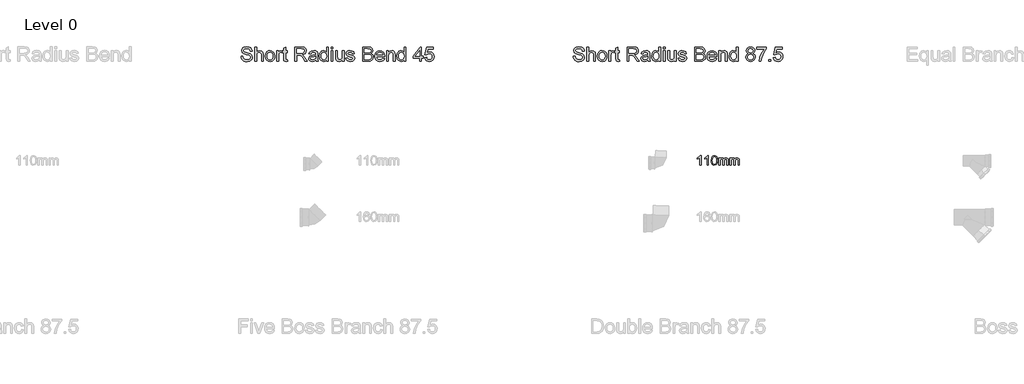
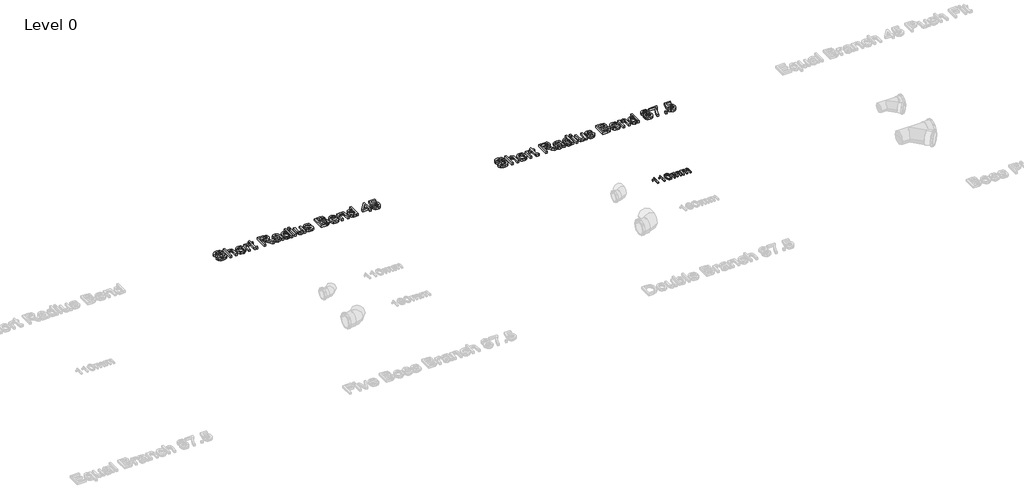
# One storey, part 13 of 15: 3 proxies.
"""IFC4 building model written with IfcOpenShell, lengths in millimetres."""

import ifcopenshell
import ifcopenshell.guid

model = None  # the IFC model being written
_history = None  # IfcOwnerHistory: only IFC2X3 demands one
_inside = {}  # id of a spatial element -> (the spatial element, [elements in it])
_under = {}  # id of a project, library or spatial element -> (it, [spatial elements below it])
_declared = {}  # id of a project -> (the project, [libraries it declares])
_typed = {}  # id of a type object -> (the type object, [elements of that type])
_made_of = {}  # id of a material, layer set ... -> (it, [elements and type objects made of it])


def new_model(schema):
    """Start an empty IFC model of exactly this schema.

    Asked for "IFC4X3", IfcOpenShell would pick the latest addendum, in which some entities
    have other attributes; the version numbers below select the first issue.
    IFC2X3 requires an IfcOwnerHistory on every rooted entity: one is made here for all.
    """
    global model, _history
    if schema == "IFC4X3":
        model = ifcopenshell.file(schema_version=(4, 3, 0, 0))
    else:
        model = ifcopenshell.file(schema=schema)
    _inside.clear()
    _under.clear()
    _declared.clear()
    _typed.clear()
    _made_of.clear()
    _history = None
    if model.schema == "IFC2X3":
        org = make("IfcOrganization", Name="unknown")
        user = make(
            "IfcPersonAndOrganization",
            ThePerson=make("IfcPerson", FamilyName="unknown"),
            TheOrganization=org,
        )
        app = make(
            "IfcApplication",
            ApplicationDeveloper=org,
            Version="unknown",
            ApplicationFullName="unknown",
            ApplicationIdentifier="unknown",
        )
        _history = make(
            "IfcOwnerHistory",
            OwningUser=user,
            OwningApplication=app,
            ChangeAction="ADDED",
            CreationDate=0,
        )
    return model


def make(cls, **values):
    """One entity of the class cls with the attributes given. An attribute that is None is left unset."""
    return model.create_entity(
        cls, **{name: value for name, value in values.items() if value is not None}
    )


def rooted(cls, **values):
    """An entity with a GlobalId (a new one), such as an element, a storey or a relation."""
    return make(cls, GlobalId=ifcopenshell.guid.new(), OwnerHistory=_history, **values)


def si_unit(unit_type, name, prefix=None):
    """IfcSIUnit, for example si_unit("LENGTHUNIT", "METRE", prefix="MILLI")."""
    return make("IfcSIUnit", UnitType=unit_type, Prefix=prefix, Name=name)


def assignment(units):
    """IfcUnitAssignment: the units of a project."""
    return None if units is None else make("IfcUnitAssignment", Units=units)


def point(xyz):
    """IfcCartesianPoint."""
    return None if xyz is None else make("IfcCartesianPoint", Coordinates=xyz)


def direction(xyz):
    """IfcDirection."""
    return None if xyz is None else make("IfcDirection", DirectionRatios=xyz)


def frame(location, z_axis=None, x_axis=None):
    """IfcAxis2Placement3D, a coordinate frame: its origin and axes. An axis left out is left unset."""
    return make(
        "IfcAxis2Placement3D",
        Location=point(location),
        Axis=direction(z_axis),
        RefDirection=direction(x_axis),
    )


def origin():
    """The frame at (0, 0, 0) with its axes left unset."""
    return frame((0.0, 0.0, 0.0))


def origin_with_axes():
    """The frame at (0, 0, 0) with the z axis (0, 0, 1) and the x axis (1, 0, 0) written out."""
    return frame((0.0, 0.0, 0.0), z_axis=(0.0, 0.0, 1.0), x_axis=(1.0, 0.0, 0.0))


def place(relative_to, where):
    """IfcLocalPlacement: puts the frame where relative to a parent placement (None: the world)."""
    return make(
        "IfcLocalPlacement", PlacementRelTo=relative_to, RelativePlacement=where
    )


def context(
    kind, dimensions, precision=None, world=None, true_north=None, identifier=None
):
    """IfcGeometricRepresentationContext, for example the 3D "Model" context."""
    return make(
        "IfcGeometricRepresentationContext",
        ContextIdentifier=identifier,
        ContextType=kind,
        CoordinateSpaceDimension=dimensions,
        Precision=precision,
        WorldCoordinateSystem=world,
        TrueNorth=true_north,
    )


def project(units=None, contexts=None):
    """IfcProject with its units and contexts."""
    return rooted(
        "IfcProject",
        Name="project",
        RepresentationContexts=contexts,
        UnitsInContext=assignment(units),
    )


def spatial(cls, under=None, at=None, **own):
    """A site, building, storey or space (cls), placed at a placement, below another one or the project."""
    s = rooted(cls, ObjectPlacement=at, **own)
    if under is not None:
        _under.setdefault(under.id(), (under, []))[1].append(s)
    return s


def polyline(points):
    """IfcPolyline through the points."""
    return make("IfcPolyline", Points=[point(p) for p in points])


def outline(outer, holes=None, kind="AREA"):
    """IfcArbitraryClosedProfileDef: a profile drawn as a closed curve; with holes, ...WithVoids."""
    if holes is None:
        return make("IfcArbitraryClosedProfileDef", ProfileType=kind, OuterCurve=outer)
    return make(
        "IfcArbitraryProfileDefWithVoids",
        ProfileType=kind,
        OuterCurve=outer,
        InnerCurves=holes,
    )


def extrude(swept, where, along, depth):
    """IfcExtrudedAreaSolid: the profile swept, set in the frame where, extruded along a direction by depth."""
    return make(
        "IfcExtrudedAreaSolid",
        SweptArea=swept,
        Position=where,
        ExtrudedDirection=direction(along),
        Depth=depth,
    )


def shape(context_of_items, identifier, shape_type, items):
    """IfcShapeRepresentation: the items that make up one representation, for example the "Body"."""
    return make(
        "IfcShapeRepresentation",
        ContextOfItems=context_of_items,
        RepresentationIdentifier=identifier,
        RepresentationType=shape_type,
        Items=items,
    )


def made_of(thing, what):
    """Note that an element or type object is made of a material, layer set ...; save() writes the relation."""
    if what is not None:
        _made_of.setdefault(what.id(), (what, []))[1].append(thing)
    return thing


def element(
    cls,
    number,
    at=None,
    inside=None,
    cuts=None,
    type_object=None,
    material=None,
    context=None,
    identifier="Body",
    shape_type=None,
    held_by="IfcProductDefinitionShape",
    body=None,
    shapes=None,
    **own,
):
    """One element of the class cls, such as IfcWall. Its Tag is "e" and its number.

    at: its placement. inside: the storey or other place that contains it. cuts: it is an
    opening in that element (IfcRelVoidsElement). A single representation is given by context,
    identifier, shape_type and body (its items); several are given by shapes. held_by: the class
    of the entity that holds the representations. save() writes the other relations.
    """
    e = rooted(cls, Tag="e%d" % number, ObjectPlacement=at, **own)
    if body is not None:
        shapes = [shape(context, identifier, shape_type, body)]
    if shapes is not None:
        e.Representation = make(held_by, Representations=shapes)
    if inside is not None:
        _inside.setdefault(inside.id(), (inside, []))[1].append(e)
    if cuts is not None:
        rooted(
            "IfcRelVoidsElement", RelatingBuildingElement=cuts, RelatedOpeningElement=e
        )
    if type_object is not None:
        _typed.setdefault(type_object.id(), (type_object, []))[1].append(e)
    return made_of(e, material)


def aggregate(whole, parts):
    """IfcRelAggregates: a whole, such as a stair, and the parts it consists of."""
    return rooted("IfcRelAggregates", RelatingObject=whole, RelatedObjects=parts)


def save(model, path):
    """Write the relations noted so far, then the file.

    IfcRelAggregates (storeys below a building ...), IfcRelContainedInSpatialStructure (elements
    in a storey), IfcRelDefinesByType, IfcRelAssociatesMaterial and IfcRelDeclares: one each for
    every whole, place, type object, material and project.
    """
    for whole, parts in _under.values():
        aggregate(whole, parts)
    for where, things in _inside.values():
        rooted(
            "IfcRelContainedInSpatialStructure",
            RelatedElements=things,
            RelatingStructure=where,
        )
    for kind, things in _typed.values():
        rooted("IfcRelDefinesByType", RelatedObjects=things, RelatingType=kind)
    for what, things in _made_of.values():
        rooted("IfcRelAssociatesMaterial", RelatedObjects=things, RelatingMaterial=what)
    for by, libraries in _declared.values():
        rooted("IfcRelDeclares", RelatingContext=by, RelatedDefinitions=libraries)
    model.write(path)


model = new_model("IFC4")

# Units and contexts
model_context = context("Model", 3, world=origin())
ifc_project = project(units=[si_unit("LENGTHUNIT", "METRE", prefix="MILLI")], contexts=[model_context])

# Site, building, storey
site = spatial("IfcSite", under=ifc_project)
building = spatial("IfcBuilding", under=site)
storey = spatial("IfcBuildingStorey", under=building, Name="Level 0", Elevation=0.0)

# Proxies
placement = place(None, origin())
element("IfcBuildingElementProxy", 1, Name="100mm Arial", ObjectType="100mm Arial", at=placement, inside=storey, context=model_context, shape_type="SweptSolid", body=[
    extrude(outline(polyline([(-3291.7293188, 8237.7167304), (-3304.0370111, 8237.7167304), (-3304.0370111, 8314.4474996), (-3315.6956649, 8306.1422111), (-3328.6523957, 8299.9282688), (-3328.6523957, 8311.5628842), (-3310.6115303, 8323.0773073), (-3299.6620111, 8336.1782688), (-3291.7293188, 8336.1782688), (-3291.7293188, 8237.7167304)])), origin_with_axes(), (0.0, 0.0, 1.0), 15.0),
    extrude(outline(polyline([(-3216.3447034, 8237.7167304), (-3228.6523957, 8237.7167304), (-3228.6523957, 8314.4474996), (-3240.3110495, 8306.1422111), (-3253.2677803, 8299.9282688), (-3253.2677803, 8311.5628842), (-3235.2269149, 8323.0773073), (-3224.2773957, 8336.1782688), (-3216.3447034, 8336.1782688), (-3216.3447034, 8237.7167304)])), origin_with_axes(), (0.0, 0.0, 1.0), 15.0),
    extrude(outline(polyline([(-3187.1139341, 8286.1542304), (-3183.4961457, 8314.4835573), (-3172.7509534, 8330.8176919), (-3154.8062418, 8336.1782688), (-3140.4312418, 8333.0051919), (-3130.5033572, 8323.8585573), (-3124.7341264, 8309.2912496), (-3122.4985495, 8286.1542304), (-3126.0802803, 8257.9450958), (-3136.7894149, 8241.5749035), (-3154.8062418, 8236.1782688), (-3167.5947034, 8238.5220188), (-3177.3062418, 8245.5532688), (-3184.6620111, 8262.2059131), (-3187.1139341, 8286.1542304)]), holes=[polyline([(-3174.8062418, 8286.1782688), (-3173.3639341, 8266.8182929), (-3169.0370111, 8255.613365), (-3162.5947034, 8250.2678121), (-3154.8062418, 8248.4859611), (-3147.0177803, 8250.2738217), (-3140.5754726, 8255.6374035), (-3136.2485495, 8266.848341), (-3134.8062418, 8286.1782688), (-3136.2004726, 8305.1025477), (-3140.3831649, 8316.394615), (-3146.8134534, 8322.0015861), (-3154.9504726, 8323.8705765), (-3162.6547995, 8322.2239419), (-3168.8447034, 8317.2840381), (-3173.3158572, 8305.2888458), (-3174.8062418, 8286.1782688)])]), origin_with_axes(), (0.0, 0.0, 1.0), 15.0),
    extrude(outline(polyline([(-3108.6523957, 8237.7167304), (-3108.6523957, 8310.0244227), (-3096.3447034, 8310.0244227), (-3096.3447034, 8298.1253842), (-3087.8831649, 8307.8729804), (-3075.8398957, 8311.5628842), (-3063.5081649, 8307.800865), (-3056.7293188, 8297.2599996), (-3047.1259534, 8307.9871631), (-3034.9985495, 8311.5628842), (-3025.7467466, 8310.0755044), (-3018.9047995, 8305.613365), (-3014.6770351, 8298.0562736), (-3013.2677803, 8287.2840381), (-3013.2677803, 8237.7167304), (-3025.5754726, 8237.7167304), (-3025.5754726, 8281.9955765), (-3026.7172995, 8292.2720188), (-3030.8519149, 8297.332115), (-3037.8831649, 8299.2551919), (-3049.9865303, 8294.3273073), (-3054.8062418, 8278.5340381), (-3054.8062418, 8237.7167304), (-3067.1139341, 8237.7167304), (-3067.1139341, 8283.3657688), (-3069.9624918, 8295.2888458), (-3079.3014341, 8299.2551919), (-3088.4120111, 8296.6109611), (-3094.4697034, 8288.8705765), (-3096.3447034, 8274.1830765), (-3096.3447034, 8237.7167304), (-3108.6523957, 8237.7167304)])), origin_with_axes(), (0.0, 0.0, 1.0), 15.0),
    extrude(outline(polyline([(-2994.8062418, 8237.7167304), (-2994.8062418, 8310.0244227), (-2982.4985495, 8310.0244227), (-2982.4985495, 8298.1253842), (-2974.0370111, 8307.8729804), (-2961.9937418, 8311.5628842), (-2949.6620111, 8307.800865), (-2942.8831649, 8297.2599996), (-2933.2797995, 8307.9871631), (-2921.1523957, 8311.5628842), (-2911.9005928, 8310.0755044), (-2905.0586457, 8305.613365), (-2900.8308813, 8298.0562736), (-2899.4216264, 8287.2840381), (-2899.4216264, 8237.7167304), (-2911.7293188, 8237.7167304), (-2911.7293188, 8281.9955765), (-2912.8711457, 8292.2720188), (-2917.0057611, 8297.332115), (-2924.0370111, 8299.2551919), (-2936.1403764, 8294.3273073), (-2940.960088, 8278.5340381), (-2940.960088, 8237.7167304), (-2953.2677803, 8237.7167304), (-2953.2677803, 8283.3657688), (-2956.116338, 8295.2888458), (-2965.4552803, 8299.2551919), (-2974.5658572, 8296.6109611), (-2980.6235495, 8288.8705765), (-2982.4985495, 8274.1830765), (-2982.4985495, 8237.7167304), (-2994.8062418, 8237.7167304)])), origin_with_axes(), (0.0, 0.0, 1.0), 15.0),
])
element("IfcBuildingElementProxy", 2, Name="150mm Arial", ObjectType="150mm Arial", at=placement, inside=storey, context=model_context, shape_type="SweptSolid", body=[
    extrude(outline(polyline([(-8020.2202973, 9355.9837527), (-8001.7587589, 9355.9837527), (-7995.8092397, 9337.5041854), (-7981.2779897, 9325.8214931), (-7959.1385666, 9321.3683681), (-7939.8477012, 9324.7397623), (-7927.3897685, 9334.0065892), (-7923.2972204, 9346.3924065), (-7926.3621243, 9357.9128392), (-7938.9102012, 9366.2962527), (-7965.7912108, 9373.3455315), (-7994.7275089, 9382.4500988), (-8010.4306339, 9396.1880796), (-8015.6049127, 9414.541445), (-8014.0048526, 9425.3542455), (-8009.2046723, 9435.4368777), (-8001.3305738, 9443.9825508), (-7990.5087589, 9450.1844738), (-7963.1409704, 9455.2145219), (-7933.9342397, 9449.9500988), (-7922.7383262, 9443.4506998), (-7914.4630858, 9434.4813488), (-7909.225706, 9423.6009402), (-7907.1433743, 9411.3683681), (-7925.6049127, 9411.3683681), (-7928.9943358, 9422.3839931), (-7936.0616435, 9430.3347142), (-7947.1043118, 9435.1484161), (-7962.4198166, 9436.7529835), (-7978.0958983, 9435.166445), (-7988.850105, 9430.4068296), (-7995.070057, 9423.4026229), (-7997.1433743, 9415.0823104), (-7995.6740233, 9407.9879594), (-7991.2659704, 9402.2818296), (-7961.1217397, 9391.9693296), (-7928.4534704, 9382.7025027), (-7917.9291315, 9376.0047863), (-7910.5868839, 9367.7385604), (-7904.835682, 9346.8611565), (-7906.4898286, 9335.4804474), (-7911.4522685, 9324.77582), (-7919.5201772, 9315.5630796), (-7930.49073, 9308.6580315), (-7958.4174127, 9302.9068296), (-7976.5048526, 9304.4573104), (-7991.3921723, 9309.1087527), (-8003.2506459, 9316.8791854), (-8012.2515473, 9327.7866373), (-8018.0297925, 9341.0738969), (-8020.2202973, 9355.9837527)])), origin_with_axes(), (0.0, 0.0, 1.0), 25.0),
    extrude(outline(polyline([(-7879.4510666, 9305.2145219), (-7879.4510666, 9452.9068296), (-7860.9895281, 9452.9068296), (-7860.9895281, 9398.603945), (-7846.5934945, 9411.6388008), (-7828.8621243, 9415.9837527), (-7808.1289512, 9411.2421661), (-7795.5448166, 9398.135195), (-7791.7587589, 9373.8683681), (-7791.7587589, 9305.2145219), (-7810.2202973, 9305.2145219), (-7810.2202973, 9371.9573104), (-7811.6896483, 9383.5138008), (-7816.0977012, 9391.4284642), (-7823.2010666, 9395.9987767), (-7832.756355, 9397.5222142), (-7847.882557, 9393.4116373), (-7857.9787108, 9382.2698104), (-7860.9895281, 9362.8347142), (-7860.9895281, 9305.2145219), (-7879.4510666, 9305.2145219)])), origin_with_axes(), (0.0, 0.0, 1.0), 25.0),
    extrude(outline(polyline([(-7770.9895281, 9359.4452911), (-7766.9961387, 9385.5961325), (-7755.0159704, 9403.9765411), (-7740.2142877, 9412.9819498), (-7722.491932, 9415.9837527), (-7703.0974007, 9412.3284041), (-7687.6061147, 9401.3623585), (-7677.4513671, 9383.9510003), (-7674.0664512, 9360.9597142), (-7675.5628454, 9342.3088729), (-7680.0520281, 9328.1111565), (-7687.4032901, 9317.4786445), (-7697.4859223, 9309.5234161), (-7709.4615834, 9304.5609762), (-7722.491932, 9302.9068296), (-7742.1208382, 9306.5486565), (-7757.5940954, 9317.4741373), (-7767.6406699, 9335.2505796), (-7770.9895281, 9359.4452911)]), holes=[polyline([(-7752.5279897, 9359.4813488), (-7750.3915714, 9342.7731157), (-7743.9823166, 9330.86957), (-7734.3368839, 9323.7436686), (-7722.491932, 9321.3683681), (-7710.7010666, 9323.7571902), (-7701.0736627, 9330.9236565), (-7694.6644079, 9342.9849546), (-7692.5279897, 9360.0582719), (-7694.6779296, 9376.2797262), (-7701.1277493, 9388.0210123), (-7710.7686747, 9395.1469137), (-7722.491932, 9397.5222142), (-7734.3368839, 9395.1559282), (-7743.9823166, 9388.05707), (-7750.3915714, 9376.1805676), (-7752.5279897, 9359.4813488)])]), origin_with_axes(), (0.0, 0.0, 1.0), 25.0),
    extrude(outline(polyline([(-7653.2972204, 9305.2145219), (-7653.2972204, 9413.6760604), (-7637.1433743, 9413.6760604), (-7637.1433743, 9397.6303873), (-7625.6770281, 9412.4140411), (-7614.1385666, 9415.9837527), (-7595.6049127, 9410.2866373), (-7601.7707781, 9393.7361565), (-7614.7515473, 9397.5222142), (-7625.1902493, 9393.8803873), (-7631.8428935, 9383.7842335), (-7634.835682, 9362.2217335), (-7634.835682, 9305.2145219), (-7653.2972204, 9305.2145219)])), origin_with_axes(), (0.0, 0.0, 1.0), 25.0),
    extrude(outline(polyline([(-7544.835682, 9320.6111565), (-7542.5279897, 9304.6736565), (-7556.3380858, 9302.9068296), (-7571.8068358, 9305.9717335), (-7579.523182, 9314.0125988), (-7581.7587589, 9334.9621181), (-7581.7587589, 9395.2145219), (-7595.6049127, 9395.2145219), (-7595.6049127, 9413.6760604), (-7581.7587589, 9413.6760604), (-7581.7587589, 9440.0342335), (-7563.2972204, 9450.8875988), (-7563.2972204, 9413.6760604), (-7544.835682, 9413.6760604), (-7544.835682, 9395.2145219), (-7563.2972204, 9395.2145219), (-7563.2972204, 9335.5029835), (-7562.3236627, 9325.9837527), (-7559.1686147, 9322.6123585), (-7552.8765473, 9321.3683681), (-7544.835682, 9320.6111565)])), origin_with_axes(), (0.0, 0.0, 1.0), 25.0),
    extrude(outline(polyline([(-7466.3741435, 9305.2145219), (-7466.3741435, 9452.9068296), (-7402.7323166, 9452.9068296), (-7373.1830377, 9448.9224546), (-7364.0874848, 9443.4056277), (-7357.0291916, 9434.8238969), (-7352.499444, 9424.1823705), (-7350.9895281, 9412.4861565), (-7353.4910305, 9397.9368777), (-7360.9955377, 9385.8755796), (-7373.7284103, 9377.0324306), (-7391.9150089, 9372.1375988), (-7381.4222204, 9364.2409642), (-7366.4582781, 9345.2385604), (-7341.8308743, 9305.2145219), (-7363.2852012, 9305.2145219), (-7382.5039512, 9335.8275027), (-7396.3861627, 9356.0919258), (-7406.1397685, 9365.6652431), (-7414.9198166, 9369.1808681), (-7425.6289512, 9369.8299065), (-7447.912605, 9369.8299065), (-7447.912605, 9305.2145219), (-7466.3741435, 9305.2145219)]), holes=[polyline([(-7447.912605, 9388.291445), (-7406.5904897, 9388.291445), (-7385.5147685, 9390.9056277), (-7373.5436147, 9399.2710123), (-7369.4510666, 9411.8010604), (-7371.4026892, 9420.806469), (-7377.257557, 9428.0630796), (-7387.3311747, 9432.8497383), (-7401.9390473, 9434.4452911), (-7447.912605, 9434.4452911), (-7447.912605, 9388.291445)])]), origin_with_axes(), (0.0, 0.0, 1.0), 25.0),
    extrude(outline(polyline([(-7251.7587589, 9319.0606758), (-7269.6614031, 9306.5486565), (-7289.4390473, 9302.9068296), (-7304.8672324, 9305.0973344), (-7316.2479416, 9311.6688488), (-7323.2656699, 9321.6478152), (-7325.6049127, 9334.0606758), (-7322.0712589, 9348.6640411), (-7312.7864031, 9359.2650027), (-7299.8597204, 9365.322695), (-7283.8861627, 9368.0991373), (-7251.866932, 9374.4452911), (-7251.7587589, 9378.5558681), (-7253.0297925, 9386.7950508), (-7256.8428935, 9392.1856758), (-7265.3705377, 9396.1880796), (-7277.2515473, 9397.5222142), (-7295.929432, 9393.9705315), (-7304.835682, 9381.3683681), (-7323.2972204, 9383.6760604), (-7315.3104416, 9401.7049065), (-7299.2287108, 9412.2698104), (-7274.8717397, 9415.9837527), (-7252.4979416, 9412.7025027), (-7239.8597204, 9404.46332), (-7234.1986627, 9391.9332719), (-7233.2972204, 9375.7794258), (-7233.2972204, 9352.8106758), (-7232.3597204, 9320.7373585), (-7228.6818358, 9305.2145219), (-7247.1433743, 9305.2145219), (-7251.7587589, 9319.0606758)]), holes=[polyline([(-7251.7587589, 9355.9837527), (-7281.5424127, 9350.322695), (-7297.4258262, 9347.3299065), (-7304.6193358, 9342.4621181), (-7307.1433743, 9335.3587527), (-7301.6445762, 9325.3707719), (-7285.5087589, 9321.3683681), (-7266.8308743, 9325.7854354), (-7254.787605, 9336.4765411), (-7251.866932, 9350.7553873), (-7251.7587589, 9355.9837527)])]), origin_with_axes(), (0.0, 0.0, 1.0), 25.0),
    extrude(outline(polyline([(-7140.9895281, 9305.2145219), (-7140.9895281, 9322.6303873), (-7153.2040714, 9307.837719), (-7170.0880858, 9302.9068296), (-7182.023182, 9304.6916854), (-7192.9486627, 9310.0462527), (-7202.1974608, 9318.596433), (-7209.1025089, 9329.9681277), (-7213.4023887, 9343.7016012), (-7214.835682, 9359.3371181), (-7209.55323, 9388.7241373), (-7202.9546723, 9400.3797863), (-7193.7239031, 9408.9525027), (-7182.5595401, 9414.2259402), (-7170.1602012, 9415.9837527), (-7153.1409704, 9410.9537046), (-7140.9895281, 9397.8827911), (-7140.9895281, 9452.9068296), (-7122.5279897, 9452.9068296), (-7122.5279897, 9305.2145219), (-7140.9895281, 9305.2145219)]), holes=[polyline([(-7196.3741435, 9359.4092335), (-7194.2918118, 9342.7100147), (-7188.0448166, 9330.8335123), (-7178.9672925, 9323.7346541), (-7168.3933743, 9321.3683681), (-7157.8239632, 9323.6264811), (-7148.976307, 9330.40082), (-7142.9862228, 9341.8175868), (-7140.9895281, 9358.0029835), (-7143.0222805, 9375.698296), (-7149.1205377, 9387.9669258), (-7158.1935546, 9395.1333921), (-7169.1505858, 9397.5222142), (-7179.8326772, 9395.2280436), (-7188.585682, 9388.3455315), (-7194.4270281, 9376.5231157), (-7196.3741435, 9359.4092335)])]), origin_with_axes(), (0.0, 0.0, 1.0), 25.0),
    extrude(outline(polyline([(-7094.835682, 9305.2145219), (-7094.835682, 9413.6760604), (-7076.3741435, 9413.6760604), (-7076.3741435, 9305.2145219), (-7094.835682, 9305.2145219)])), origin_with_axes(), (0.0, 0.0, 1.0), 25.0),
    extrude(outline(polyline([(-7094.835682, 9434.4452911), (-7094.835682, 9452.9068296), (-7076.3741435, 9452.9068296), (-7076.3741435, 9434.4452911), (-7094.835682, 9434.4452911)])), origin_with_axes(), (0.0, 0.0, 1.0), 25.0),
    extrude(outline(polyline([(-6979.4510666, 9305.2145219), (-6979.4510666, 9323.8563488), (-6993.9102012, 9308.1442094), (-7012.7683743, 9302.9068296), (-7030.1301531, 9306.5847142), (-7042.101307, 9315.8154835), (-7047.600105, 9329.4092335), (-7048.6818358, 9346.572695), (-7048.6818358, 9413.6760604), (-7030.2202973, 9413.6760604), (-7030.2202973, 9355.2625988), (-7029.1025089, 9336.4404835), (-7021.8008262, 9325.3888008), (-7008.0448166, 9321.3683681), (-6992.6301531, 9325.478945), (-6982.443855, 9336.6748585), (-6979.4510666, 9357.2457719), (-6979.4510666, 9413.6760604), (-6960.9895281, 9413.6760604), (-6960.9895281, 9305.2145219), (-6979.4510666, 9305.2145219)])), origin_with_axes(), (0.0, 0.0, 1.0), 25.0),
    extrude(outline(polyline([(-6942.5279897, 9337.5222142), (-6924.0664512, 9339.8299065), (-6921.1547925, 9331.9332719), (-6915.5207781, 9326.1279835), (-6895.9414512, 9321.3683681), (-6877.1193358, 9325.7313488), (-6870.9895281, 9335.9717335), (-6877.1553935, 9344.2650027), (-6896.1577973, 9349.5294258), (-6923.9582781, 9358.5618777), (-6936.0916916, 9369.1087527), (-6940.2202973, 9384.0005796), (-6936.9029897, 9397.7565892), (-6927.8525089, 9408.2674065), (-6916.11573, 9413.7301469), (-6900.2323166, 9415.9837527), (-6877.7683743, 9412.3599546), (-6863.4895281, 9402.5522623), (-6857.1433743, 9385.9837527), (-6875.6049127, 9383.6760604), (-6882.5460185, 9393.8623585), (-6898.7900089, 9397.5222142), (-6916.4582781, 9394.0246181), (-6921.7587589, 9385.8755796), (-6919.5592397, 9380.5029835), (-6912.6722204, 9376.4284642), (-6896.7707781, 9372.4981758), (-6869.6734223, 9363.8082719), (-6857.0892877, 9353.9645219), (-6852.5279897, 9337.9188488), (-6857.882557, 9320.2505796), (-6873.3332781, 9307.43207), (-6896.193855, 9302.9068296), (-6914.8086387, 9305.08832), (-6928.3933743, 9311.6327911), (-6937.4618839, 9322.4681277), (-6942.5279897, 9337.5222142)])), origin_with_axes(), (0.0, 0.0, 1.0), 25.0),
    extrude(outline(polyline([(-6771.7587589, 9305.2145219), (-6771.7587589, 9452.9068296), (-6715.4005858, 9452.9068296), (-6687.7984223, 9448.5618777), (-6678.522581, 9443.049558), (-6671.5003454, 9435.2025027), (-6665.6049127, 9416.3082719), (-6670.5628454, 9399.0546661), (-6685.5448166, 9385.9837527), (-6675.0835786, 9380.5210123), (-6667.3537108, 9372.2097142), (-6662.5805738, 9361.5997383), (-6660.9895281, 9349.2409642), (-6665.33448, 9329.3912046), (-6676.0977012, 9315.2565892), (-6692.1614031, 9307.7565892), (-6715.8332781, 9305.2145219), (-6771.7587589, 9305.2145219)]), holes=[polyline([(-6753.2972204, 9323.6760604), (-6715.4366435, 9323.6760604), (-6701.7347204, 9324.3972142), (-6690.1421723, 9328.4176469), (-6682.4618839, 9336.6207719), (-6679.4510666, 9349.0606758), (-6682.9847204, 9363.4116373), (-6694.4330377, 9371.9753392), (-6717.2395281, 9374.4452911), (-6753.2972204, 9374.4452911), (-6753.2972204, 9323.6760604)]), polyline([(-6753.2972204, 9392.9068296), (-6719.5832781, 9392.9068296), (-6699.8957781, 9394.4933681), (-6688.0508262, 9401.3263008), (-6684.0664512, 9413.3515411), (-6687.7803935, 9425.3948104), (-6698.4174127, 9432.5162046), (-6722.1433743, 9434.4452911), (-6753.2972204, 9434.4452911), (-6753.2972204, 9392.9068296)])]), origin_with_axes(), (0.0, 0.0, 1.0), 25.0),
    extrude(outline(polyline([(-6561.975105, 9337.5222142), (-6543.8741435, 9335.2145219), (-6550.3960786, 9321.5756998), (-6560.80323, 9311.3803873), (-6574.8612228, 9305.025219), (-6592.335682, 9302.9068296), (-6613.9973406, 9306.5621782), (-6630.6650089, 9317.5282238), (-6641.2930137, 9335.0928272), (-6644.835682, 9358.5438488), (-6641.256956, 9382.7836325), (-6630.5207781, 9400.9116373), (-6614.0784704, 9412.2157238), (-6593.381355, 9415.9837527), (-6573.3287709, 9412.2247383), (-6557.3056339, 9400.947695), (-6546.7993238, 9382.8557479), (-6543.2972204, 9358.6520219), (-6543.4053935, 9353.6760604), (-6626.3741435, 9353.6760604), (-6623.1785305, 9339.8569498), (-6615.7551531, 9329.697695), (-6605.0415113, 9323.4506998), (-6591.975105, 9321.3683681), (-6573.8741435, 9325.2265411), (-6561.975105, 9337.5222142)]), holes=[polyline([(-6626.3741435, 9372.1375988), (-6561.7587589, 9372.1375988), (-6564.2557541, 9381.8912046), (-6569.1505858, 9388.8683681), (-6579.913807, 9395.3587527), (-6593.4534704, 9397.5222142), (-6605.8978815, 9395.7959522), (-6616.1878454, 9390.6171661), (-6623.3407901, 9382.5447503), (-6626.3741435, 9372.1375988)])]), origin_with_axes(), (0.0, 0.0, 1.0), 25.0),
    extrude(outline(polyline([(-6524.835682, 9305.2145219), (-6524.835682, 9413.6760604), (-6506.3741435, 9413.6760604), (-6506.3741435, 9398.5318296), (-6492.257557, 9411.6207719), (-6472.9847204, 9415.9837527), (-6455.5508262, 9412.4681277), (-6443.6517877, 9403.2373585), (-6438.116932, 9389.6616373), (-6437.1433743, 9371.8130796), (-6437.1433743, 9305.2145219), (-6455.6049127, 9305.2145219), (-6455.6049127, 9369.3250988), (-6457.7323166, 9385.6592335), (-6465.2503454, 9394.2950508), (-6477.9246243, 9397.5222142), (-6488.7374247, 9395.7103152), (-6497.9546723, 9390.2746181), (-6504.2692757, 9379.7728152), (-6506.3741435, 9362.7625988), (-6506.3741435, 9305.2145219), (-6524.835682, 9305.2145219)])), origin_with_axes(), (0.0, 0.0, 1.0), 25.0),
    extrude(outline(polyline([(-6344.835682, 9305.2145219), (-6344.835682, 9322.6303873), (-6357.0502252, 9307.837719), (-6373.9342397, 9302.9068296), (-6385.8693358, 9304.6916854), (-6396.7948166, 9310.0462527), (-6406.0436147, 9318.596433), (-6412.9486627, 9329.9681277), (-6417.2485425, 9343.7016012), (-6418.6818358, 9359.3371181), (-6413.3993839, 9388.7241373), (-6406.8008262, 9400.3797863), (-6397.570057, 9408.9525027), (-6386.405694, 9414.2259402), (-6374.006355, 9415.9837527), (-6356.9871243, 9410.9537046), (-6344.835682, 9397.8827911), (-6344.835682, 9452.9068296), (-6326.3741435, 9452.9068296), (-6326.3741435, 9305.2145219), (-6344.835682, 9305.2145219)]), holes=[polyline([(-6400.2202973, 9359.4092335), (-6398.1379656, 9342.7100147), (-6391.8909704, 9330.8335123), (-6382.8134464, 9323.7346541), (-6372.2395281, 9321.3683681), (-6361.6701171, 9323.6264811), (-6352.8224608, 9330.40082), (-6346.8323767, 9341.8175868), (-6344.835682, 9358.0029835), (-6346.8684344, 9375.698296), (-6352.9666916, 9387.9669258), (-6362.0397084, 9395.1333921), (-6372.9967397, 9397.5222142), (-6383.678831, 9395.2280436), (-6392.4318358, 9388.3455315), (-6398.273182, 9376.5231157), (-6400.2202973, 9359.4092335)])]), origin_with_axes(), (0.0, 0.0, 1.0), 25.0),
    extrude(outline(polyline([(-6185.6049127, 9305.2145219), (-6185.6049127, 9339.8299065), (-6252.5279897, 9339.8299065), (-6252.5279897, 9358.291445), (-6180.9895281, 9450.5991373), (-6167.1433743, 9450.5991373), (-6167.1433743, 9358.291445), (-6148.6818358, 9358.291445), (-6148.6818358, 9339.8299065), (-6167.1433743, 9339.8299065), (-6167.1433743, 9305.2145219), (-6185.6049127, 9305.2145219)]), holes=[polyline([(-6185.6049127, 9358.291445), (-6185.6049127, 9415.3347142), (-6229.8116435, 9358.291445), (-6185.6049127, 9358.291445)])]), origin_with_axes(), (0.0, 0.0, 1.0), 25.0),
    extrude(outline(polyline([(-6132.5279897, 9344.4452911), (-6114.0664512, 9346.7529835), (-6110.6770281, 9335.6697503), (-6104.7635666, 9327.7325508), (-6096.3531098, 9322.9594137), (-6085.4727012, 9321.3683681), (-6072.2395281, 9323.5814089), (-6062.3236627, 9330.2205315), (-6056.1307541, 9340.5195099), (-6054.0664512, 9353.7121181), (-6056.0000449, 9366.1339931), (-6061.8008262, 9375.635195), (-6071.5138671, 9381.665844), (-6085.1842397, 9383.6760604), (-6101.3921723, 9380.4669258), (-6111.7587589, 9372.1375988), (-6130.2202973, 9374.4452911), (-6114.0664512, 9450.5991373), (-6042.5279897, 9450.5991373), (-6042.5279897, 9432.1375988), (-6099.1385666, 9432.1375988), (-6107.0352012, 9391.4645219), (-6093.8471002, 9399.4693296), (-6080.0279897, 9402.1375988), (-6062.7788911, 9398.8293056), (-6048.45948, 9388.9044258), (-6038.8185546, 9373.7782238), (-6035.6049127, 9354.8659642), (-6038.4985425, 9336.4044258), (-6047.179432, 9320.6111565), (-6063.8020281, 9307.3329113), (-6085.5448166, 9302.9068296), (-6103.6773286, 9305.7508801), (-6118.1229416, 9314.2830315), (-6128.0252853, 9327.5116974), (-6132.5279897, 9344.4452911)])), origin_with_axes(), (0.0, 0.0, 1.0), 25.0),
])
element("IfcBuildingElementProxy", 3, Name="150mm Arial", ObjectType="150mm Arial", at=placement, inside=storey, context=model_context, shape_type="SweptSolid", body=[
    extrude(outline(polyline([(-4605.6049127, 9355.9837527), (-4587.1433743, 9355.9837527), (-4581.193855, 9337.5041854), (-4566.662605, 9325.8214931), (-4544.523182, 9321.3683681), (-4525.2323166, 9324.7397623), (-4512.7743839, 9334.0065892), (-4508.6818358, 9346.3924065), (-4511.7467397, 9357.9128392), (-4524.2948166, 9366.2962527), (-4551.1758262, 9373.3455315), (-4580.1121243, 9382.4500988), (-4595.8152493, 9396.1880796), (-4600.9895281, 9414.541445), (-4599.389468, 9425.3542455), (-4594.5892877, 9435.4368777), (-4586.7151892, 9443.9825508), (-4575.8933743, 9450.1844738), (-4548.5255858, 9455.2145219), (-4519.318855, 9449.9500988), (-4508.1229416, 9443.4506998), (-4499.8477012, 9434.4813488), (-4494.6103214, 9423.6009402), (-4492.5279897, 9411.3683681), (-4510.9895281, 9411.3683681), (-4514.3789512, 9422.3839931), (-4521.4462589, 9430.3347142), (-4532.4889272, 9435.1484161), (-4547.804432, 9436.7529835), (-4563.4805137, 9435.166445), (-4574.2347204, 9430.4068296), (-4580.4546723, 9423.4026229), (-4582.5279897, 9415.0823104), (-4581.0586387, 9407.9879594), (-4576.6505858, 9402.2818296), (-4546.506355, 9391.9693296), (-4513.8380858, 9382.7025027), (-4503.3137469, 9376.0047863), (-4495.9714993, 9367.7385604), (-4490.2202973, 9346.8611565), (-4491.874444, 9335.4804474), (-4496.8368839, 9324.77582), (-4504.9047925, 9315.5630796), (-4515.8753454, 9308.6580315), (-4543.8020281, 9302.9068296), (-4561.889468, 9304.4573104), (-4576.7767877, 9309.1087527), (-4588.6352613, 9316.8791854), (-4597.6361627, 9327.7866373), (-4603.4144079, 9341.0738969), (-4605.6049127, 9355.9837527)])), origin_with_axes(), (0.0, 0.0, 1.0), 25.0),
    extrude(outline(polyline([(-4464.835682, 9305.2145219), (-4464.835682, 9452.9068296), (-4446.3741435, 9452.9068296), (-4446.3741435, 9398.603945), (-4431.9781098, 9411.6388008), (-4414.2467397, 9415.9837527), (-4393.5135666, 9411.2421661), (-4380.929432, 9398.135195), (-4377.1433743, 9373.8683681), (-4377.1433743, 9305.2145219), (-4395.6049127, 9305.2145219), (-4395.6049127, 9371.9573104), (-4397.0742637, 9383.5138008), (-4401.4823166, 9391.4284642), (-4408.585682, 9395.9987767), (-4418.1409704, 9397.5222142), (-4433.2671723, 9393.4116373), (-4443.3633262, 9382.2698104), (-4446.3741435, 9362.8347142), (-4446.3741435, 9305.2145219), (-4464.835682, 9305.2145219)])), origin_with_axes(), (0.0, 0.0, 1.0), 25.0),
    extrude(outline(polyline([(-4356.3741435, 9359.4452911), (-4352.3807541, 9385.5961325), (-4340.4005858, 9403.9765411), (-4325.5989031, 9412.9819498), (-4307.8765473, 9415.9837527), (-4288.4820161, 9412.3284041), (-4272.99073, 9401.3623585), (-4262.8359824, 9383.9510003), (-4259.4510666, 9360.9597142), (-4260.9474608, 9342.3088729), (-4265.4366435, 9328.1111565), (-4272.7879055, 9317.4786445), (-4282.8705377, 9309.5234161), (-4294.8461988, 9304.5609762), (-4307.8765473, 9302.9068296), (-4327.5054536, 9306.5486565), (-4342.9787108, 9317.4741373), (-4353.0252853, 9335.2505796), (-4356.3741435, 9359.4452911)]), holes=[polyline([(-4337.912605, 9359.4813488), (-4335.7761868, 9342.7731157), (-4329.366932, 9330.86957), (-4319.7214993, 9323.7436686), (-4307.8765473, 9321.3683681), (-4296.085682, 9323.7571902), (-4286.4582781, 9330.9236565), (-4280.0490233, 9342.9849546), (-4277.912605, 9360.0582719), (-4280.0625449, 9376.2797262), (-4286.5123647, 9388.0210123), (-4296.1532901, 9395.1469137), (-4307.8765473, 9397.5222142), (-4319.7214993, 9395.1559282), (-4329.366932, 9388.05707), (-4335.7761868, 9376.1805676), (-4337.912605, 9359.4813488)])]), origin_with_axes(), (0.0, 0.0, 1.0), 25.0),
    extrude(outline(polyline([(-4238.6818358, 9305.2145219), (-4238.6818358, 9413.6760604), (-4222.5279897, 9413.6760604), (-4222.5279897, 9397.6303873), (-4211.0616435, 9412.4140411), (-4199.523182, 9415.9837527), (-4180.9895281, 9410.2866373), (-4187.1553935, 9393.7361565), (-4200.1361627, 9397.5222142), (-4210.5748647, 9393.8803873), (-4217.2275089, 9383.7842335), (-4220.2202973, 9362.2217335), (-4220.2202973, 9305.2145219), (-4238.6818358, 9305.2145219)])), origin_with_axes(), (0.0, 0.0, 1.0), 25.0),
    extrude(outline(polyline([(-4130.2202973, 9320.6111565), (-4127.912605, 9304.6736565), (-4141.7227012, 9302.9068296), (-4157.1914512, 9305.9717335), (-4164.9077973, 9314.0125988), (-4167.1433743, 9334.9621181), (-4167.1433743, 9395.2145219), (-4180.9895281, 9395.2145219), (-4180.9895281, 9413.6760604), (-4167.1433743, 9413.6760604), (-4167.1433743, 9440.0342335), (-4148.6818358, 9450.8875988), (-4148.6818358, 9413.6760604), (-4130.2202973, 9413.6760604), (-4130.2202973, 9395.2145219), (-4148.6818358, 9395.2145219), (-4148.6818358, 9335.5029835), (-4147.7082781, 9325.9837527), (-4144.55323, 9322.6123585), (-4138.2611627, 9321.3683681), (-4130.2202973, 9320.6111565)])), origin_with_axes(), (0.0, 0.0, 1.0), 25.0),
    extrude(outline(polyline([(-4051.7587589, 9305.2145219), (-4051.7587589, 9452.9068296), (-3988.116932, 9452.9068296), (-3958.5676531, 9448.9224546), (-3949.4721002, 9443.4056277), (-3942.413807, 9434.8238969), (-3937.8840594, 9424.1823705), (-3936.3741435, 9412.4861565), (-3938.8756459, 9397.9368777), (-3946.3801531, 9385.8755796), (-3959.1130257, 9377.0324306), (-3977.2996243, 9372.1375988), (-3966.8068358, 9364.2409642), (-3951.8428935, 9345.2385604), (-3927.2154897, 9305.2145219), (-3948.6698166, 9305.2145219), (-3967.8885666, 9335.8275027), (-3981.7707781, 9356.0919258), (-3991.5243839, 9365.6652431), (-4000.304432, 9369.1808681), (-4011.0135666, 9369.8299065), (-4033.2972204, 9369.8299065), (-4033.2972204, 9305.2145219), (-4051.7587589, 9305.2145219)]), holes=[polyline([(-4033.2972204, 9388.291445), (-3991.975105, 9388.291445), (-3970.8993839, 9390.9056277), (-3958.92823, 9399.2710123), (-3954.835682, 9411.8010604), (-3956.7873046, 9420.806469), (-3962.6421723, 9428.0630796), (-3972.7157901, 9432.8497383), (-3987.3236627, 9434.4452911), (-4033.2972204, 9434.4452911), (-4033.2972204, 9388.291445)])]), origin_with_axes(), (0.0, 0.0, 1.0), 25.0),
    extrude(outline(polyline([(-3837.1433743, 9319.0606758), (-3855.0460185, 9306.5486565), (-3874.8236627, 9302.9068296), (-3890.2518478, 9305.0973344), (-3901.632557, 9311.6688488), (-3908.6502853, 9321.6478152), (-3910.9895281, 9334.0606758), (-3907.4558743, 9348.6640411), (-3898.1710185, 9359.2650027), (-3885.2443358, 9365.322695), (-3869.2707781, 9368.0991373), (-3837.2515473, 9374.4452911), (-3837.1433743, 9378.5558681), (-3838.4144079, 9386.7950508), (-3842.2275089, 9392.1856758), (-3850.7551531, 9396.1880796), (-3862.6361627, 9397.5222142), (-3881.3140473, 9393.9705315), (-3890.2202973, 9381.3683681), (-3908.6818358, 9383.6760604), (-3900.695057, 9401.7049065), (-3884.6133262, 9412.2698104), (-3860.256355, 9415.9837527), (-3837.882557, 9412.7025027), (-3825.2443358, 9404.46332), (-3819.5832781, 9391.9332719), (-3818.6818358, 9375.7794258), (-3818.6818358, 9352.8106758), (-3817.7443358, 9320.7373585), (-3814.0664512, 9305.2145219), (-3832.5279897, 9305.2145219), (-3837.1433743, 9319.0606758)]), holes=[polyline([(-3837.1433743, 9355.9837527), (-3866.9270281, 9350.322695), (-3882.8104416, 9347.3299065), (-3890.0039512, 9342.4621181), (-3892.5279897, 9335.3587527), (-3887.0291916, 9325.3707719), (-3870.8933743, 9321.3683681), (-3852.2154897, 9325.7854354), (-3840.1722204, 9336.4765411), (-3837.2515473, 9350.7553873), (-3837.1433743, 9355.9837527)])]), origin_with_axes(), (0.0, 0.0, 1.0), 25.0),
    extrude(outline(polyline([(-3726.3741435, 9305.2145219), (-3726.3741435, 9322.6303873), (-3738.5886868, 9307.837719), (-3755.4727012, 9302.9068296), (-3767.4077973, 9304.6916854), (-3778.3332781, 9310.0462527), (-3787.5820762, 9318.596433), (-3794.4871243, 9329.9681277), (-3798.7870041, 9343.7016012), (-3800.2202973, 9359.3371181), (-3794.9378454, 9388.7241373), (-3788.3392877, 9400.3797863), (-3779.1085185, 9408.9525027), (-3767.9441555, 9414.2259402), (-3755.5448166, 9415.9837527), (-3738.5255858, 9410.9537046), (-3726.3741435, 9397.8827911), (-3726.3741435, 9452.9068296), (-3707.912605, 9452.9068296), (-3707.912605, 9305.2145219), (-3726.3741435, 9305.2145219)]), holes=[polyline([(-3781.7587589, 9359.4092335), (-3779.6764272, 9342.7100147), (-3773.429432, 9330.8335123), (-3764.3519079, 9323.7346541), (-3753.7779897, 9321.3683681), (-3743.2085786, 9323.6264811), (-3734.3609223, 9330.40082), (-3728.3708382, 9341.8175868), (-3726.3741435, 9358.0029835), (-3728.4068959, 9375.698296), (-3734.5051531, 9387.9669258), (-3743.5781699, 9395.1333921), (-3754.5352012, 9397.5222142), (-3765.2172925, 9395.2280436), (-3773.9702973, 9388.3455315), (-3779.8116435, 9376.5231157), (-3781.7587589, 9359.4092335)])]), origin_with_axes(), (0.0, 0.0, 1.0), 25.0),
    extrude(outline(polyline([(-3680.2202973, 9305.2145219), (-3680.2202973, 9413.6760604), (-3661.7587589, 9413.6760604), (-3661.7587589, 9305.2145219), (-3680.2202973, 9305.2145219)])), origin_with_axes(), (0.0, 0.0, 1.0), 25.0),
    extrude(outline(polyline([(-3680.2202973, 9434.4452911), (-3680.2202973, 9452.9068296), (-3661.7587589, 9452.9068296), (-3661.7587589, 9434.4452911), (-3680.2202973, 9434.4452911)])), origin_with_axes(), (0.0, 0.0, 1.0), 25.0),
    extrude(outline(polyline([(-3564.835682, 9305.2145219), (-3564.835682, 9323.8563488), (-3579.2948166, 9308.1442094), (-3598.1529897, 9302.9068296), (-3615.5147685, 9306.5847142), (-3627.4859223, 9315.8154835), (-3632.9847204, 9329.4092335), (-3634.0664512, 9346.572695), (-3634.0664512, 9413.6760604), (-3615.6049127, 9413.6760604), (-3615.6049127, 9355.2625988), (-3614.4871243, 9336.4404835), (-3607.1854416, 9325.3888008), (-3593.429432, 9321.3683681), (-3578.0147685, 9325.478945), (-3567.8284704, 9336.6748585), (-3564.835682, 9357.2457719), (-3564.835682, 9413.6760604), (-3546.3741435, 9413.6760604), (-3546.3741435, 9305.2145219), (-3564.835682, 9305.2145219)])), origin_with_axes(), (0.0, 0.0, 1.0), 25.0),
    extrude(outline(polyline([(-3527.912605, 9337.5222142), (-3509.4510666, 9339.8299065), (-3506.5394079, 9331.9332719), (-3500.9053935, 9326.1279835), (-3481.3260666, 9321.3683681), (-3462.5039512, 9325.7313488), (-3456.3741435, 9335.9717335), (-3462.5400089, 9344.2650027), (-3481.5424127, 9349.5294258), (-3509.3428935, 9358.5618777), (-3521.476307, 9369.1087527), (-3525.6049127, 9384.0005796), (-3522.287605, 9397.7565892), (-3513.2371243, 9408.2674065), (-3501.5003454, 9413.7301469), (-3485.616932, 9415.9837527), (-3463.1529897, 9412.3599546), (-3448.8741435, 9402.5522623), (-3442.5279897, 9385.9837527), (-3460.9895281, 9383.6760604), (-3467.9306339, 9393.8623585), (-3484.1746243, 9397.5222142), (-3501.8428935, 9394.0246181), (-3507.1433743, 9385.8755796), (-3504.943855, 9380.5029835), (-3498.0568358, 9376.4284642), (-3482.1553935, 9372.4981758), (-3455.0580377, 9363.8082719), (-3442.4739031, 9353.9645219), (-3437.912605, 9337.9188488), (-3443.2671723, 9320.2505796), (-3458.7178935, 9307.43207), (-3481.5784704, 9302.9068296), (-3500.1932541, 9305.08832), (-3513.7779897, 9311.6327911), (-3522.8464993, 9322.4681277), (-3527.912605, 9337.5222142)])), origin_with_axes(), (0.0, 0.0, 1.0), 25.0),
    extrude(outline(polyline([(-3357.1433743, 9305.2145219), (-3357.1433743, 9452.9068296), (-3300.7852012, 9452.9068296), (-3273.1830377, 9448.5618777), (-3263.9071964, 9443.049558), (-3256.8849608, 9435.2025027), (-3250.9895281, 9416.3082719), (-3255.9474608, 9399.0546661), (-3270.929432, 9385.9837527), (-3260.468194, 9380.5210123), (-3252.7383262, 9372.2097142), (-3247.9651892, 9361.5997383), (-3246.3741435, 9349.2409642), (-3250.7190954, 9329.3912046), (-3261.4823166, 9315.2565892), (-3277.5460185, 9307.7565892), (-3301.2178935, 9305.2145219), (-3357.1433743, 9305.2145219)]), holes=[polyline([(-3338.6818358, 9323.6760604), (-3300.8212589, 9323.6760604), (-3287.1193358, 9324.3972142), (-3275.5267877, 9328.4176469), (-3267.8464993, 9336.6207719), (-3264.835682, 9349.0606758), (-3268.3693358, 9363.4116373), (-3279.8176531, 9371.9753392), (-3302.6241435, 9374.4452911), (-3338.6818358, 9374.4452911), (-3338.6818358, 9323.6760604)]), polyline([(-3338.6818358, 9392.9068296), (-3304.9678935, 9392.9068296), (-3285.2803935, 9394.4933681), (-3273.4354416, 9401.3263008), (-3269.4510666, 9413.3515411), (-3273.1650089, 9425.3948104), (-3283.8020281, 9432.5162046), (-3307.5279897, 9434.4452911), (-3338.6818358, 9434.4452911), (-3338.6818358, 9392.9068296)])]), origin_with_axes(), (0.0, 0.0, 1.0), 25.0),
    extrude(outline(polyline([(-3147.3597204, 9337.5222142), (-3129.2587589, 9335.2145219), (-3135.780694, 9321.5756998), (-3146.1878454, 9311.3803873), (-3160.2458382, 9305.025219), (-3177.7202973, 9302.9068296), (-3199.381956, 9306.5621782), (-3216.0496243, 9317.5282238), (-3226.6776291, 9335.0928272), (-3230.2202973, 9358.5438488), (-3226.6415714, 9382.7836325), (-3215.9053935, 9400.9116373), (-3199.4630858, 9412.2157238), (-3178.7659704, 9415.9837527), (-3158.7133863, 9412.2247383), (-3142.6902493, 9400.947695), (-3132.1839392, 9382.8557479), (-3128.6818358, 9358.6520219), (-3128.7900089, 9353.6760604), (-3211.7587589, 9353.6760604), (-3208.5631459, 9339.8569498), (-3201.1397685, 9329.697695), (-3190.4261267, 9323.4506998), (-3177.3597204, 9321.3683681), (-3159.2587589, 9325.2265411), (-3147.3597204, 9337.5222142)]), holes=[polyline([(-3211.7587589, 9372.1375988), (-3147.1433743, 9372.1375988), (-3149.6403695, 9381.8912046), (-3154.5352012, 9388.8683681), (-3165.2984223, 9395.3587527), (-3178.8380858, 9397.5222142), (-3191.2824969, 9395.7959522), (-3201.5724608, 9390.6171661), (-3208.7254055, 9382.5447503), (-3211.7587589, 9372.1375988)])]), origin_with_axes(), (0.0, 0.0, 1.0), 25.0),
    extrude(outline(polyline([(-3110.2202973, 9305.2145219), (-3110.2202973, 9413.6760604), (-3091.7587589, 9413.6760604), (-3091.7587589, 9398.5318296), (-3077.6421723, 9411.6207719), (-3058.3693358, 9415.9837527), (-3040.9354416, 9412.4681277), (-3029.0364031, 9403.2373585), (-3023.5015473, 9389.6616373), (-3022.5279897, 9371.8130796), (-3022.5279897, 9305.2145219), (-3040.9895281, 9305.2145219), (-3040.9895281, 9369.3250988), (-3043.116932, 9385.6592335), (-3050.6349608, 9394.2950508), (-3063.3092397, 9397.5222142), (-3074.1220401, 9395.7103152), (-3083.3392877, 9390.2746181), (-3089.6538911, 9379.7728152), (-3091.7587589, 9362.7625988), (-3091.7587589, 9305.2145219), (-3110.2202973, 9305.2145219)])), origin_with_axes(), (0.0, 0.0, 1.0), 25.0),
    extrude(outline(polyline([(-2930.2202973, 9305.2145219), (-2930.2202973, 9322.6303873), (-2942.4348406, 9307.837719), (-2959.318855, 9302.9068296), (-2971.2539512, 9304.6916854), (-2982.179432, 9310.0462527), (-2991.42823, 9318.596433), (-2998.3332781, 9329.9681277), (-3002.6331579, 9343.7016012), (-3004.0664512, 9359.3371181), (-2998.7839993, 9388.7241373), (-2992.1854416, 9400.3797863), (-2982.9546723, 9408.9525027), (-2971.7903094, 9414.2259402), (-2959.3909704, 9415.9837527), (-2942.3717397, 9410.9537046), (-2930.2202973, 9397.8827911), (-2930.2202973, 9452.9068296), (-2911.7587589, 9452.9068296), (-2911.7587589, 9305.2145219), (-2930.2202973, 9305.2145219)]), holes=[polyline([(-2985.6049127, 9359.4092335), (-2983.522581, 9342.7100147), (-2977.2755858, 9330.8335123), (-2968.1980618, 9323.7346541), (-2957.6241435, 9321.3683681), (-2947.0547324, 9323.6264811), (-2938.2070762, 9330.40082), (-2932.2169921, 9341.8175868), (-2930.2202973, 9358.0029835), (-2932.2530497, 9375.698296), (-2938.351307, 9387.9669258), (-2947.4243238, 9395.1333921), (-2958.381355, 9397.5222142), (-2969.0634464, 9395.2280436), (-2977.8164512, 9388.3455315), (-2983.6577973, 9376.5231157), (-2985.6049127, 9359.4092335)])]), origin_with_axes(), (0.0, 0.0, 1.0), 25.0),
    extrude(outline(polyline([(-2804.0904897, 9386.5606758), (-2820.9114031, 9398.0270219), (-2826.3741435, 9415.8755796), (-2823.3993839, 9430.307671), (-2814.475105, 9442.2337527), (-2800.6019079, 9450.2385604), (-2782.7803935, 9452.9068296), (-2764.850706, 9450.1754594), (-2750.7972204, 9441.9813488), (-2741.710682, 9429.8659642), (-2738.6818358, 9415.3707719), (-2744.0724608, 9397.9729354), (-2760.4246243, 9386.5606758), (-2749.061944, 9380.705808), (-2740.7912108, 9372.0835123), (-2735.7476411, 9361.1084522), (-2734.0664512, 9348.1952911), (-2737.4017877, 9330.5450508), (-2747.4077973, 9315.9597142), (-2762.8585185, 9306.1700508), (-2782.5279897, 9302.9068296), (-2802.1974608, 9306.1835724), (-2817.648182, 9316.0138008), (-2827.6541916, 9330.7388609), (-2830.9895281, 9348.7000988), (-2829.24073, 9362.1135604), (-2823.9943358, 9373.1472142), (-2815.5207781, 9381.4224546), (-2804.0904897, 9386.5606758)]), holes=[polyline([(-2812.5279897, 9349.3491373), (-2809.445057, 9335.4488969), (-2798.537605, 9325.0462527), (-2782.3837589, 9321.3683681), (-2769.8176531, 9323.3019618), (-2760.3885666, 9329.1027431), (-2754.4931339, 9337.8872984), (-2752.5279897, 9348.7722142), (-2754.5562348, 9359.8419258), (-2760.6409704, 9368.8202911), (-2770.2864031, 9374.7698104), (-2782.9967397, 9376.7529835), (-2795.3870642, 9374.7968536), (-2804.7214993, 9368.9284642), (-2810.5763671, 9360.1213729), (-2812.5279897, 9349.3491373)]), polyline([(-2807.912605, 9415.3347142), (-2806.2764872, 9407.27582), (-2801.3681339, 9400.8395219), (-2793.3317757, 9396.6207719), (-2782.3116435, 9395.2145219), (-2771.5484223, 9396.6117575), (-2763.6337589, 9400.8034642), (-2758.7659704, 9407.0234161), (-2757.1433743, 9414.5053873), (-2758.820057, 9422.2713128), (-2763.850105, 9428.6940892), (-2771.8729416, 9433.0074907), (-2782.5279897, 9434.4452911), (-2793.2506459, 9433.0390411), (-2801.2599608, 9428.8202911), (-2806.249444, 9422.6363969), (-2807.912605, 9415.3347142)])]), origin_with_axes(), (0.0, 0.0, 1.0), 25.0),
    extrude(outline(polyline([(-2717.912605, 9432.1375988), (-2717.912605, 9450.5991373), (-2620.9895281, 9450.5991373), (-2620.9895281, 9435.6712527), (-2648.4835185, 9395.9537046), (-2669.523182, 9345.3467335), (-2676.3741435, 9305.2145219), (-2694.835682, 9305.2145219), (-2687.4979416, 9346.8611565), (-2667.3597204, 9393.9344738), (-2639.4510666, 9432.1375988), (-2717.912605, 9432.1375988)])), origin_with_axes(), (0.0, 0.0, 1.0), 25.0),
    extrude(outline(polyline([(-2595.6049127, 9305.2145219), (-2595.6049127, 9323.6760604), (-2577.1433743, 9323.6760604), (-2577.1433743, 9305.2145219), (-2595.6049127, 9305.2145219)])), origin_with_axes(), (0.0, 0.0, 1.0), 25.0),
    extrude(outline(polyline([(-2547.1433743, 9344.4452911), (-2528.6818358, 9346.7529835), (-2525.2924127, 9335.6697503), (-2519.3789512, 9327.7325508), (-2510.9684945, 9322.9594137), (-2500.0880858, 9321.3683681), (-2486.8549127, 9323.5814089), (-2476.9390473, 9330.2205315), (-2470.7461387, 9340.5195099), (-2468.6818358, 9353.7121181), (-2470.6154296, 9366.1339931), (-2476.4162108, 9375.635195), (-2486.1292517, 9381.665844), (-2499.7996243, 9383.6760604), (-2516.007557, 9380.4669258), (-2526.3741435, 9372.1375988), (-2544.835682, 9374.4452911), (-2528.6818358, 9450.5991373), (-2457.1433743, 9450.5991373), (-2457.1433743, 9432.1375988), (-2513.7539512, 9432.1375988), (-2521.6505858, 9391.4645219), (-2508.4624848, 9399.4693296), (-2494.6433743, 9402.1375988), (-2477.3942757, 9398.8293056), (-2463.0748647, 9388.9044258), (-2453.4339392, 9373.7782238), (-2450.2202973, 9354.8659642), (-2453.1139272, 9336.4044258), (-2461.7948166, 9320.6111565), (-2478.4174127, 9307.3329113), (-2500.1602012, 9302.9068296), (-2518.2927132, 9305.7508801), (-2532.7383262, 9314.2830315), (-2542.6406699, 9327.5116974), (-2547.1433743, 9344.4452911)])), origin_with_axes(), (0.0, 0.0, 1.0), 25.0),
])

save(model, "model.ifc")
